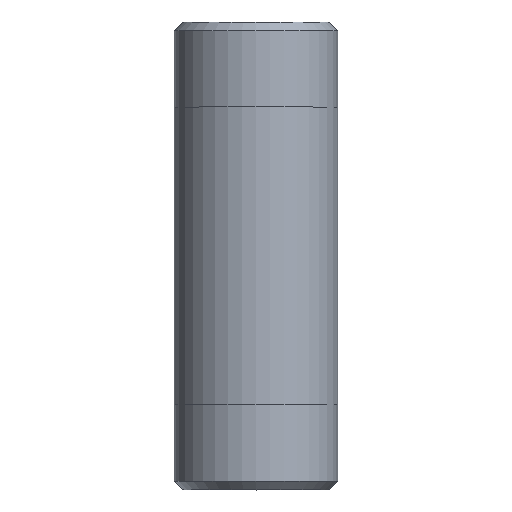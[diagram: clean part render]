
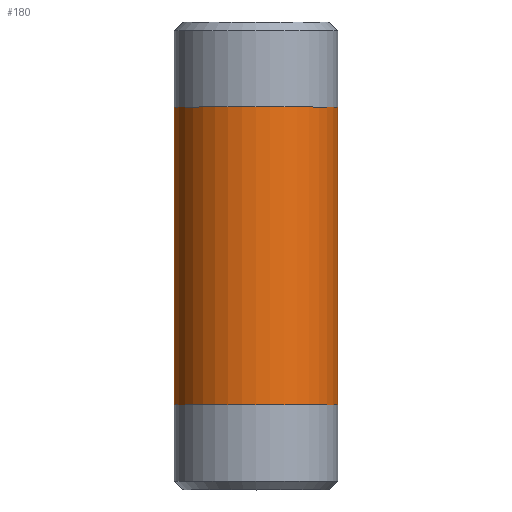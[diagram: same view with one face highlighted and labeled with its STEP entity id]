
A CAD part, top view. The second image highlights one B-rep face of the part: STEP entity #180.
In plain terms, the highlighted cylindrical face has radius 13.335 mm (diameter 26.67 mm), a full revolution.
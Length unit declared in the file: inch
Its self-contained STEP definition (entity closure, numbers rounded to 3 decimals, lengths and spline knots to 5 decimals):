
#25=CYLINDRICAL_SURFACE('',#220,0.525);
#34=FACE_OUTER_BOUND('',#47,.T.);
#47=EDGE_LOOP('',(#155,#156,#157,#158,#159,#160));
#55=LINE('',#338,#61);
#61=VECTOR('',#283,0.525);
#77=CIRCLE('',#218,0.525);
#78=CIRCLE('',#219,0.525);
#79=CIRCLE('',#221,0.525);
#80=CIRCLE('',#222,0.525);
#95=VERTEX_POINT('',#329);
#96=VERTEX_POINT('',#330);
#97=VERTEX_POINT('',#334);
#98=VERTEX_POINT('',#335);
#117=EDGE_CURVE('',#95,#96,#77,.T.);
#118=EDGE_CURVE('',#96,#95,#78,.T.);
#119=EDGE_CURVE('',#97,#98,#79,.T.);
#120=EDGE_CURVE('',#98,#97,#80,.T.);
#121=EDGE_CURVE('',#98,#96,#55,.T.);
#155=ORIENTED_EDGE('',*,*,#119,.F.);
#156=ORIENTED_EDGE('',*,*,#120,.F.);
#157=ORIENTED_EDGE('',*,*,#121,.T.);
#158=ORIENTED_EDGE('',*,*,#118,.T.);
#159=ORIENTED_EDGE('',*,*,#117,.T.);
#160=ORIENTED_EDGE('',*,*,#121,.F.);
#180=ADVANCED_FACE('',(#34),#25,.T.);
#218=AXIS2_PLACEMENT_3D('',#331,#273,#274);
#219=AXIS2_PLACEMENT_3D('',#332,#275,#276);
#220=AXIS2_PLACEMENT_3D('',#333,#277,#278);
#221=AXIS2_PLACEMENT_3D('',#336,#279,#280);
#222=AXIS2_PLACEMENT_3D('',#337,#281,#282);
#273=DIRECTION('center_axis',(0.,-1.,0.));
#274=DIRECTION('ref_axis',(1.,0.,0.));
#275=DIRECTION('center_axis',(0.,-1.,0.));
#276=DIRECTION('ref_axis',(1.,0.,0.));
#277=DIRECTION('center_axis',(0.,-1.,0.));
#278=DIRECTION('ref_axis',(0.,0.,-1.));
#279=DIRECTION('center_axis',(0.,-1.,0.));
#280=DIRECTION('ref_axis',(1.,0.,0.));
#281=DIRECTION('center_axis',(0.,-1.,0.));
#282=DIRECTION('ref_axis',(1.,0.,0.));
#283=DIRECTION('',(0.,1.,0.));
#329=CARTESIAN_POINT('',(0.,2.455,-0.525));
#330=CARTESIAN_POINT('',(0.,2.455,0.525));
#331=CARTESIAN_POINT('Origin',(0.,2.455,0.));
#332=CARTESIAN_POINT('Origin',(0.,2.455,0.));
#333=CARTESIAN_POINT('Origin',(0.,1.5,0.));
#334=CARTESIAN_POINT('',(0.,0.545,-0.525));
#335=CARTESIAN_POINT('',(0.,0.545,0.525));
#336=CARTESIAN_POINT('Origin',(0.,0.545,0.));
#337=CARTESIAN_POINT('Origin',(0.,0.545,0.));
#338=CARTESIAN_POINT('',(0.,1.5,0.525));
